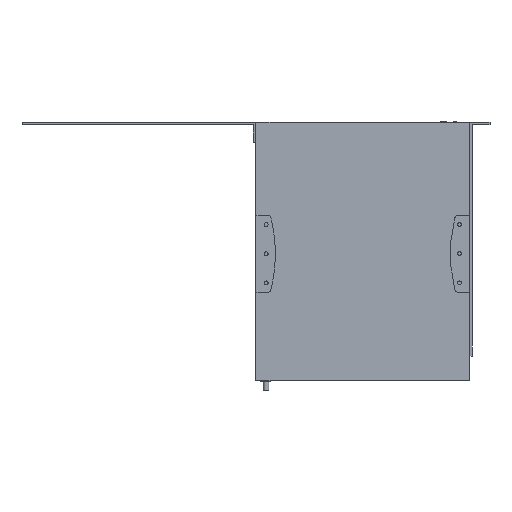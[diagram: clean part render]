
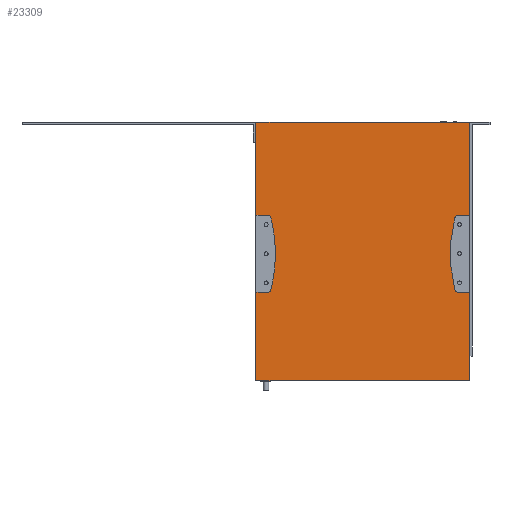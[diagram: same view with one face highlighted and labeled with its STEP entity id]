
A CAD part, front view. The second image highlights one B-rep face of the part: STEP entity #23309.
In plain terms, the highlighted planar face has unit normal (0, -1, 0).
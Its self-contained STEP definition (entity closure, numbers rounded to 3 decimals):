
#133 = DIRECTION ( 'NONE',  ( 1., 0., 0. ) ) ;
#307 = DIRECTION ( 'NONE',  ( 0., -1., 0. ) ) ;
#386 = VECTOR ( 'NONE', #26834, 1000. ) ;
#723 = CARTESIAN_POINT ( 'NONE',  ( 110.07, -21.8, 37.5 ) ) ;
#770 = ORIENTED_EDGE ( 'NONE', *, *, #17416, .F. ) ;
#799 = VECTOR ( 'NONE', #6307, 1000. ) ;
#873 = ORIENTED_EDGE ( 'NONE', *, *, #16713, .F. ) ;
#1029 = CARTESIAN_POINT ( 'NONE',  ( 110.07, -21.8, 133.295 ) ) ;
#1509 = DIRECTION ( 'NONE',  ( -1., 0., 0. ) ) ;
#1650 = DIRECTION ( 'NONE',  ( 1., 0., 0. ) ) ;
#1737 = CARTESIAN_POINT ( 'NONE',  ( 98.378, -21.8, -42.1 ) ) ;
#2011 = CARTESIAN_POINT ( 'NONE',  ( -110.07, -21.8, -42.1 ) ) ;
#2034 = ORIENTED_EDGE ( 'NONE', *, *, #18505, .F. ) ;
#2072 = ORIENTED_EDGE ( 'NONE', *, *, #20113, .T. ) ;
#2208 = AXIS2_PLACEMENT_3D ( 'NONE', #18723, #24193, #3872 ) ;
#3022 = VERTEX_POINT ( 'NONE', #24459 ) ;
#3258 = AXIS2_PLACEMENT_3D ( 'NONE', #17436, #20033, #1509 ) ;
#3268 = EDGE_CURVE ( 'NONE', #5078, #9756, #19896, .T. ) ;
#3428 = DIRECTION ( 'NONE',  ( -1., 0., 0. ) ) ;
#3872 = DIRECTION ( 'NONE',  ( 1., 0., 0. ) ) ;
#4530 = EDGE_CURVE ( 'NONE', #20236, #5078, #12007, .T. ) ;
#4572 = CARTESIAN_POINT ( 'NONE',  ( -110.07, -21.8, 133.295 ) ) ;
#5078 = VERTEX_POINT ( 'NONE', #25617 ) ;
#5498 = CARTESIAN_POINT ( 'NONE',  ( -90.07, -21.8, -2.3 ) ) ;
#5633 = DIRECTION ( 'NONE',  ( 0., -1., 0. ) ) ;
#5900 = AXIS2_PLACEMENT_3D ( 'NONE', #19773, #5633, #3428 ) ;
#6068 = LINE ( 'NONE', #24067, #23949 ) ;
#6208 = VERTEX_POINT ( 'NONE', #1737 ) ;
#6307 = DIRECTION ( 'NONE',  ( 0., 0., -1. ) ) ;
#6748 = CARTESIAN_POINT ( 'NONE',  ( 110.07, -21.8, 133.295 ) ) ;
#6886 = CARTESIAN_POINT ( 'NONE',  ( -110.07, -21.8, 133.295 ) ) ;
#6921 = LINE ( 'NONE', #4572, #386 ) ;
#6998 = DIRECTION ( 'NONE',  ( 0., -1., 0. ) ) ;
#7170 = ORIENTED_EDGE ( 'NONE', *, *, #15402, .F. ) ;
#7400 = ORIENTED_EDGE ( 'NONE', *, *, #27405, .F. ) ;
#7406 = VERTEX_POINT ( 'NONE', #16278 ) ;
#8142 = FACE_OUTER_BOUND ( 'NONE', #10421, .T. ) ;
#8348 = VERTEX_POINT ( 'NONE', #723 ) ;
#8846 = VECTOR ( 'NONE', #14872, 1000. ) ;
#9347 = VECTOR ( 'NONE', #20327, 1000. ) ;
#9756 = VERTEX_POINT ( 'NONE', #18768 ) ;
#10336 = VECTOR ( 'NONE', #16912, 1000. ) ;
#10421 = EDGE_LOOP ( 'NONE', ( #2034, #7400, #7170, #16874, #18438, #20313, #18741, #770, #23886, #22363, #28073, #21981, #23396, #22883, #873, #16957, #2072 ) ) ;
#10662 = VECTOR ( 'NONE', #17883, 1000. ) ;
#11424 = DIRECTION ( 'NONE',  ( 1., 0., 0. ) ) ;
#11720 = VERTEX_POINT ( 'NONE', #17432 ) ;
#11856 = DIRECTION ( 'NONE',  ( 0., -1., 0. ) ) ;
#12007 = CIRCLE ( 'NONE', #28494, 3.8 ) ;
#12081 = EDGE_CURVE ( 'NONE', #3022, #21054, #13862, .T. ) ;
#12101 = CARTESIAN_POINT ( 'NONE',  ( 110.07, -21.8, 133.295 ) ) ;
#12193 = CARTESIAN_POINT ( 'NONE',  ( -110.07, -21.8, 133.295 ) ) ;
#12945 = EDGE_CURVE ( 'NONE', #28954, #3022, #26609, .T. ) ;
#13043 = CARTESIAN_POINT ( 'NONE',  ( 110.07, -21.8, -42.1 ) ) ;
#13550 = VERTEX_POINT ( 'NONE', #22795 ) ;
#13648 = CARTESIAN_POINT ( 'NONE',  ( 98.378, -21.8, 33.7 ) ) ;
#13694 = VERTEX_POINT ( 'NONE', #16612 ) ;
#13862 = CIRCLE ( 'NONE', #27493, 3.8 ) ;
#14107 = DIRECTION ( 'NONE',  ( 0., 0., -1. ) ) ;
#14421 = LINE ( 'NONE', #16780, #8846 ) ;
#14675 = CIRCLE ( 'NONE', #23600, 149.8 ) ;
#14728 = CARTESIAN_POINT ( 'NONE',  ( -98.378, -21.8, 33.7 ) ) ;
#14872 = DIRECTION ( 'NONE',  ( -1., 0., 0. ) ) ;
#14903 = CIRCLE ( 'NONE', #29020, 3.8 ) ;
#15328 = VERTEX_POINT ( 'NONE', #12101 ) ;
#15402 = EDGE_CURVE ( 'NONE', #9756, #6208, #19119, .T. ) ;
#15518 = LINE ( 'NONE', #21841, #10662 ) ;
#15647 = DIRECTION ( 'NONE',  ( 1., 0., 0. ) ) ;
#15737 = LINE ( 'NONE', #6748, #799 ) ;
#15767 = CARTESIAN_POINT ( 'NONE',  ( 98.378, -21.8, 37.5 ) ) ;
#15787 = DIRECTION ( 'NONE',  ( -1., 0., 0. ) ) ;
#16278 = CARTESIAN_POINT ( 'NONE',  ( 110.07, -21.8, -133.295 ) ) ;
#16469 = LINE ( 'NONE', #12193, #10336 ) ;
#16612 = CARTESIAN_POINT ( 'NONE',  ( -110.07, -21.8, -133.295 ) ) ;
#16713 = EDGE_CURVE ( 'Edge4', #19584, #17075, #6068, .T. ) ;
#16780 = CARTESIAN_POINT ( 'NONE',  ( -98.378, -21.8, 37.5 ) ) ;
#16874 = ORIENTED_EDGE ( 'NONE', *, *, #3268, .F. ) ;
#16911 = EDGE_CURVE ( 'NONE', #15328, #8348, #20882, .T. ) ;
#16912 = DIRECTION ( 'NONE',  ( 1., 0., 0. ) ) ;
#16957 = ORIENTED_EDGE ( 'NONE', *, *, #18522, .T. ) ;
#17075 = VERTEX_POINT ( 'NONE', #17239 ) ;
#17239 = CARTESIAN_POINT ( 'NONE',  ( -98.378, -21.8, -42.1 ) ) ;
#17416 = EDGE_CURVE ( 'NONE', #18586, #15328, #16469, .T. ) ;
#17432 = CARTESIAN_POINT ( 'NONE',  ( -110.07, -21.8, 37.5 ) ) ;
#17436 = CARTESIAN_POINT ( 'NONE',  ( -110.07, -21.8, 133.295 ) ) ;
#17883 = DIRECTION ( 'NONE',  ( -1., 0., 0. ) ) ;
#17995 = EDGE_CURVE ( 'NONE', #8348, #20236, #15518, .T. ) ;
#18097 = LINE ( 'NONE', #6886, #28565 ) ;
#18105 = EDGE_CURVE ( 'NONE', #17075, #13550, #14903, .T. ) ;
#18438 = ORIENTED_EDGE ( 'NONE', *, *, #4530, .F. ) ;
#18505 = EDGE_CURVE ( 'NONE', #22971, #7406, #15737, .T. ) ;
#18522 = EDGE_CURVE ( 'NONE', #19584, #13694, #18097, .T. ) ;
#18539 = CARTESIAN_POINT ( 'NONE',  ( -98.378, -21.8, 37.5 ) ) ;
#18586 = VERTEX_POINT ( 'NONE', #18650 ) ;
#18650 = CARTESIAN_POINT ( 'NONE',  ( -110.07, -21.8, 133.295 ) ) ;
#18723 = CARTESIAN_POINT ( 'NONE',  ( 98.378, -21.8, -38.3 ) ) ;
#18741 = ORIENTED_EDGE ( 'NONE', *, *, #16911, .F. ) ;
#18768 = CARTESIAN_POINT ( 'NONE',  ( 94.695, -21.8, -39.237 ) ) ;
#19119 = CIRCLE ( 'NONE', #2208, 3.8 ) ;
#19232 = EDGE_CURVE ( 'NONE', #21054, #11720, #14421, .T. ) ;
#19294 = DIRECTION ( 'NONE',  ( 0., 0., -1. ) ) ;
#19584 = VERTEX_POINT ( 'NONE', #2011 ) ;
#19768 = PLANE ( 'NONE',  #3258 ) ;
#19773 = CARTESIAN_POINT ( 'NONE',  ( -239.87, -21.8, -2.3 ) ) ;
#19896 = CIRCLE ( 'NONE', #27424, 149.8 ) ;
#20033 = DIRECTION ( 'NONE',  ( 0., 1., 0. ) ) ;
#20113 = EDGE_CURVE ( 'NONE', #13694, #7406, #26547, .T. ) ;
#20236 = VERTEX_POINT ( 'NONE', #15767 ) ;
#20313 = ORIENTED_EDGE ( 'NONE', *, *, #17995, .F. ) ;
#20327 = DIRECTION ( 'NONE',  ( 1., 0., 0. ) ) ;
#20882 = LINE ( 'NONE', #1029, #28161 ) ;
#20924 = EDGE_CURVE ( 'NONE', #18586, #11720, #6921, .T. ) ;
#21054 = VERTEX_POINT ( 'NONE', #18539 ) ;
#21841 = CARTESIAN_POINT ( 'NONE',  ( 98.378, -21.8, 37.5 ) ) ;
#21981 = ORIENTED_EDGE ( 'NONE', *, *, #12945, .F. ) ;
#22269 = CARTESIAN_POINT ( 'NONE',  ( 98.378, -21.8, -42.1 ) ) ;
#22363 = ORIENTED_EDGE ( 'NONE', *, *, #19232, .F. ) ;
#22514 = DIRECTION ( 'NONE',  ( 0., -1., 0. ) ) ;
#22795 = CARTESIAN_POINT ( 'NONE',  ( -94.695, -21.8, -39.237 ) ) ;
#22883 = ORIENTED_EDGE ( 'NONE', *, *, #18105, .F. ) ;
#22971 = VERTEX_POINT ( 'NONE', #13043 ) ;
#23309 = ADVANCED_FACE ( 'NONE', ( #8142 ), #19768, .F. ) ;
#23396 = ORIENTED_EDGE ( 'NONE', *, *, #25457, .F. ) ;
#23600 = AXIS2_PLACEMENT_3D ( 'NONE', #25683, #11856, #25248 ) ;
#23706 = DIRECTION ( 'NONE',  ( 0., -1., 0. ) ) ;
#23886 = ORIENTED_EDGE ( 'NONE', *, *, #20924, .T. ) ;
#23949 = VECTOR ( 'NONE', #1650, 1000. ) ;
#24067 = CARTESIAN_POINT ( 'NONE',  ( -98.378, -21.8, -42.1 ) ) ;
#24193 = DIRECTION ( 'NONE',  ( 0., -1., 0. ) ) ;
#24459 = CARTESIAN_POINT ( 'NONE',  ( -94.695, -21.8, 34.637 ) ) ;
#25158 = CARTESIAN_POINT ( 'NONE',  ( 239.87, -21.8, -2.3 ) ) ;
#25248 = DIRECTION ( 'NONE',  ( -1., 0., 0. ) ) ;
#25457 = EDGE_CURVE ( 'NONE', #13550, #28954, #14675, .T. ) ;
#25617 = CARTESIAN_POINT ( 'NONE',  ( 94.695, -21.8, 34.637 ) ) ;
#25683 = CARTESIAN_POINT ( 'NONE',  ( -239.87, -21.8, -2.3 ) ) ;
#25777 = VECTOR ( 'NONE', #15647, 1000. ) ;
#26065 = DIRECTION ( 'NONE',  ( -1., 0., 0. ) ) ;
#26547 = LINE ( 'NONE', #26681, #9347 ) ;
#26609 = CIRCLE ( 'NONE', #5900, 149.8 ) ;
#26681 = CARTESIAN_POINT ( 'NONE',  ( -110.07, -21.8, -133.295 ) ) ;
#26834 = DIRECTION ( 'NONE',  ( 0., 0., -1. ) ) ;
#26845 = LINE ( 'NONE', #22269, #25777 ) ;
#26989 = CARTESIAN_POINT ( 'NONE',  ( -98.378, -21.8, -38.3 ) ) ;
#27405 = EDGE_CURVE ( 'NONE', #6208, #22971, #26845, .T. ) ;
#27424 = AXIS2_PLACEMENT_3D ( 'NONE', #25158, #22514, #133 ) ;
#27493 = AXIS2_PLACEMENT_3D ( 'NONE', #14728, #23706, #26065 ) ;
#28073 = ORIENTED_EDGE ( 'NONE', *, *, #12081, .F. ) ;
#28161 = VECTOR ( 'NONE', #19294, 1000. ) ;
#28494 = AXIS2_PLACEMENT_3D ( 'NONE', #13648, #6998, #11424 ) ;
#28565 = VECTOR ( 'NONE', #14107, 1000. ) ;
#28954 = VERTEX_POINT ( 'NONE', #5498 ) ;
#29020 = AXIS2_PLACEMENT_3D ( 'NONE', #26989, #307, #15787 ) ;
